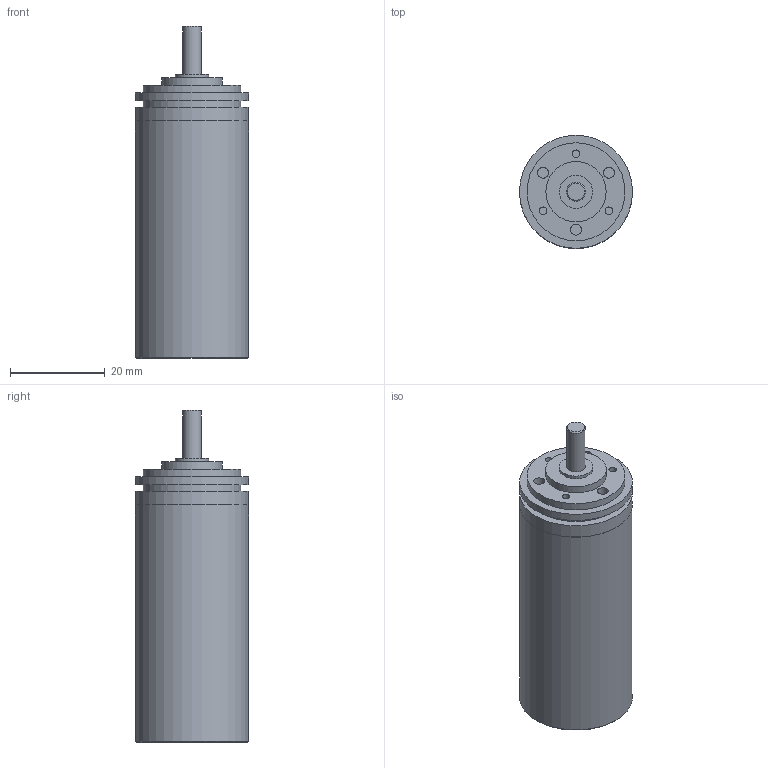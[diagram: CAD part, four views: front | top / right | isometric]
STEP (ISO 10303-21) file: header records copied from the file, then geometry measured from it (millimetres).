
FILE_DESCRIPTION(/* description */ (''),/* implementation_level */ '2;1');
FILE_NAME(/* name */ '22-2K_6.stp',/* time_stamp */ '2016-08-26T11:31:24+02:00',/* author */ ('DR. FRITZ FAULHABER GmbH & Co. KG'),/* organization */ ('DR. FRITZ FAULHABER GmbH & Co. KG'),/* preprocessor_version */ 'ST-DEVELOPER v16',/* originating_system */ 'SIEMENS PLM Software NX 10.0',/* authorisation */ '');
FILE_SCHEMA (('AUTOMOTIVE_DESIGN { 1 0 10303 214 3 1 1 1 }'));
Length unit declared in the file: millimetre
Products named in the file (1): H00000846_A
Bounding box: 23.8 x 23.8 x 69.9 mm (x, y, z)
Volume: 17636.8 mm3; surface area: 7252.9 mm2
Topology: 1 solids, 1 shells, 42 faces, 65 edges, 43 vertices
Faces by surface type: plane 20, cylinder 19, cone 3
Full cylindrical faces by diameter (mm): 1.6 x3, 2.329 x3, 3.5 x1, 4 x1, 4.5 x1, 7 x2, 12.7 x1, 20.63 x2, 22 x1, 23.79 x1, 23.8 x3
Entity records: 858 total; most frequent: DIRECTION 168, CARTESIAN_POINT 125, AXIS2_PLACEMENT_3D 84, EDGE_LOOP 82, ORIENTED_EDGE 82, FACE_BOUND 74, ADVANCED_FACE 42, VERTEX_POINT 41
